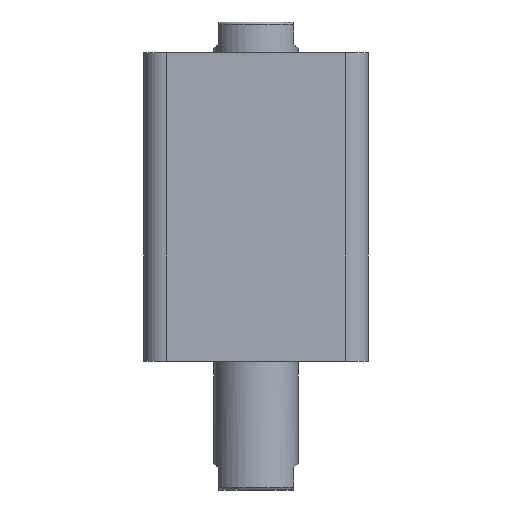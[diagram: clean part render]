
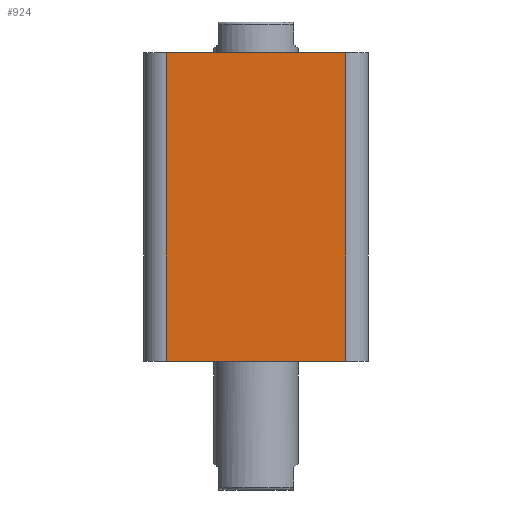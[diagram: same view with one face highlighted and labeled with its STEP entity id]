
A CAD part, front view. The second image highlights one B-rep face of the part: STEP entity #924.
In plain terms, the highlighted planar face has unit normal (0, -1, 0).
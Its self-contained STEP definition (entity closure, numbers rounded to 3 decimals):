
#445 = VERTEX_POINT ( 'NONE', #1037 ) ;
#474 = CARTESIAN_POINT ( 'NONE',  ( -32., -40., 110. ) ) ;
#521 = CARTESIAN_POINT ( 'NONE',  ( 32., -40., 110. ) ) ;
#542 = CARTESIAN_POINT ( 'NONE',  ( -32., -40., 0. ) ) ;
#637 = AXIS2_PLACEMENT_3D ( 'NONE', #1172, #1176, #1177 ) ;
#924 = ADVANCED_FACE ( 'NONE', ( #2610 ), #1174, .F. ) ;
#1037 = CARTESIAN_POINT ( 'NONE',  ( 32., -40., 0. ) ) ;
#1172 = CARTESIAN_POINT ( 'NONE',  ( -40., -40., 110. ) ) ;
#1174 = PLANE ( 'NONE',  #637 ) ;
#1176 = DIRECTION ( 'NONE',  ( 0., 1., 0. ) ) ;
#1177 = DIRECTION ( 'NONE',  ( 0., 0., 1. ) ) ;
#1401 = LINE ( 'NONE', #2165, #1415 ) ;
#1414 = LINE ( 'NONE', #2169, #1417 ) ;
#1415 = VECTOR ( 'NONE', #2160, 1000. ) ;
#1417 = VECTOR ( 'NONE', #2170, 1000. ) ;
#1424 = LINE ( 'NONE', #2183, #1427 ) ;
#1426 = LINE ( 'NONE', #2185, #1429 ) ;
#1427 = VECTOR ( 'NONE', #2184, 1000. ) ;
#1429 = VECTOR ( 'NONE', #2186, 1000. ) ;
#1749 = VERTEX_POINT ( 'NONE', #474 ) ;
#2160 = DIRECTION ( 'NONE',  ( 1., 0., 0. ) ) ;
#2165 = CARTESIAN_POINT ( 'NONE',  ( -40., -40., 110. ) ) ;
#2169 = CARTESIAN_POINT ( 'NONE',  ( -32., -40., 110. ) ) ;
#2170 = DIRECTION ( 'NONE',  ( 0., 0., -1. ) ) ;
#2183 = CARTESIAN_POINT ( 'NONE',  ( 32., -40., 110. ) ) ;
#2184 = DIRECTION ( 'NONE',  ( 0., 0., 1. ) ) ;
#2185 = CARTESIAN_POINT ( 'NONE',  ( -40., -40., 0. ) ) ;
#2186 = DIRECTION ( 'NONE',  ( 1., 0., 0. ) ) ;
#2610 = FACE_OUTER_BOUND ( 'NONE', #2867, .T. ) ;
#2817 = ORIENTED_EDGE ( 'NONE', *, *, #3137, .T. ) ;
#2825 = ORIENTED_EDGE ( 'NONE', *, *, #3131, .T. ) ;
#2827 = ORIENTED_EDGE ( 'NONE', *, *, #3138, .T. ) ;
#2862 = ORIENTED_EDGE ( 'NONE', *, *, #3130, .F. ) ;
#2867 = EDGE_LOOP ( 'NONE', ( #2862, #2825, #2827, #2817 ) ) ;
#2901 = VERTEX_POINT ( 'NONE', #521 ) ;
#2950 = VERTEX_POINT ( 'NONE', #542 ) ;
#3130 = EDGE_CURVE ( 'NONE', #1749, #2901, #1401, .T. ) ;
#3131 = EDGE_CURVE ( 'NONE', #1749, #2950, #1414, .T. ) ;
#3137 = EDGE_CURVE ( 'NONE', #445, #2901, #1424, .T. ) ;
#3138 = EDGE_CURVE ( 'NONE', #2950, #445, #1426, .T. ) ;
